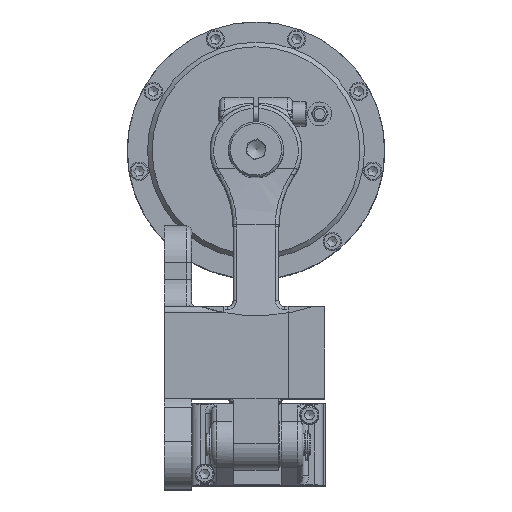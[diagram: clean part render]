
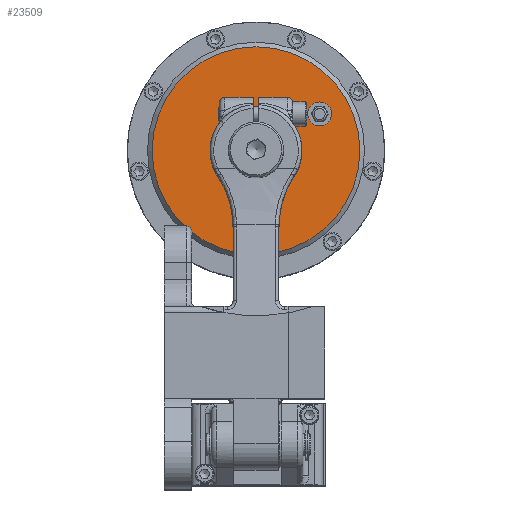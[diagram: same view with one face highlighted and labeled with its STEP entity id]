
A CAD part, top view. The second image highlights one B-rep face of the part: STEP entity #23509.
In plain terms, the highlighted planar face has unit normal (0, 0, 1).
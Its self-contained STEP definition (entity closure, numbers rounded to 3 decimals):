
#524=FACE_BOUND('',#4924,.T.);
#525=FACE_BOUND('',#4925,.T.);
#1538=CIRCLE('',#24523,23.);
#2335=CIRCLE('',#26045,56.5);
#2336=CIRCLE('',#26046,15.);
#2337=CIRCLE('',#26047,6.5);
#2338=CIRCLE('',#26048,6.5);
#3533=FACE_OUTER_BOUND('',#4923,.T.);
#4923=EDGE_LOOP('',(#20111));
#4924=EDGE_LOOP('',(#20112,#20113,#20114,#20115));
#4925=EDGE_LOOP('',(#20116,#20117));
#5499=LINE('',#38585,#7016);
#6153=LINE('',#42162,#7670);
#7016=VECTOR('',#28498,10.);
#7670=VECTOR('',#30724,10.);
#9084=VERTEX_POINT('',#38525);
#9090=VERTEX_POINT('',#38574);
#9092=VERTEX_POINT('',#38596);
#9787=VERTEX_POINT('',#42160);
#10382=VERTEX_POINT('',#44133);
#10383=VERTEX_POINT('',#44136);
#10384=VERTEX_POINT('',#44137);
#11717=EDGE_CURVE('',#9084,#9090,#5499,.T.);
#11720=EDGE_CURVE('',#9092,#9090,#1538,.T.);
#12839=EDGE_CURVE('',#9092,#9787,#6153,.T.);
#13660=EDGE_CURVE('',#10382,#10382,#2335,.T.);
#13661=EDGE_CURVE('',#9787,#9084,#2336,.T.);
#13662=EDGE_CURVE('',#10383,#10384,#2337,.T.);
#13663=EDGE_CURVE('',#10384,#10383,#2338,.T.);
#20111=ORIENTED_EDGE('',*,*,#13660,.F.);
#20112=ORIENTED_EDGE('',*,*,#12839,.T.);
#20113=ORIENTED_EDGE('',*,*,#13661,.T.);
#20114=ORIENTED_EDGE('',*,*,#11717,.T.);
#20115=ORIENTED_EDGE('',*,*,#11720,.F.);
#20116=ORIENTED_EDGE('',*,*,#13662,.T.);
#20117=ORIENTED_EDGE('',*,*,#13663,.T.);
#21124=PLANE('',#26044);
#23509=ADVANCED_FACE('',(#3533,#524,#525),#21124,.T.);
#24523=AXIS2_PLACEMENT_3D('',#38607,#28503,#28504);
#26044=AXIS2_PLACEMENT_3D('',#44132,#32482,#32483);
#26045=AXIS2_PLACEMENT_3D('',#44134,#32484,#32485);
#26046=AXIS2_PLACEMENT_3D('',#44135,#32486,#32487);
#26047=AXIS2_PLACEMENT_3D('',#44138,#32488,#32489);
#26048=AXIS2_PLACEMENT_3D('',#44139,#32490,#32491);
#28498=DIRECTION('',(0.,1.,0.));
#28503=DIRECTION('center_axis',(0.,0.,
1.));
#28504=DIRECTION('ref_axis',(0.,-1.,0.));
#30724=DIRECTION('',(0.,-1.,0.));
#32482=DIRECTION('center_axis',(0.,0.,
1.));
#32483=DIRECTION('ref_axis',(0.5,-0.866,0.));
#32484=DIRECTION('center_axis',(0.,0.,
-1.));
#32485=DIRECTION('ref_axis',(-0.866,-0.5,0.));
#32486=DIRECTION('center_axis',(0.,0.,
-1.));
#32487=DIRECTION('ref_axis',(0.866,0.5,0.));
#32488=DIRECTION('center_axis',(0.,0.,
-1.));
#32489=DIRECTION('ref_axis',(0.5,-0.866,0.));
#32490=DIRECTION('center_axis',(0.,0.,
-1.));
#32491=DIRECTION('ref_axis',(0.5,-0.866,0.));
#38525=CARTESIAN_POINT('',(51.5,149.925,-39.15));
#38574=CARTESIAN_POINT('',(51.5,157.951,-39.15));
#38585=CARTESIAN_POINT('',(51.5,163.884,-39.15));
#38596=CARTESIAN_POINT('',(48.5,157.951,-39.15));
#38607=CARTESIAN_POINT('Origin',(50.,135.,-39.15));
#42160=CARTESIAN_POINT('',(48.5,149.925,-39.15));
#42162=CARTESIAN_POINT('',(48.5,153.081,-39.15));
#44132=CARTESIAN_POINT('Origin',(82.043,153.5,-39.15));
#44133=CARTESIAN_POINT('',(98.93,163.25,-39.15));
#44134=CARTESIAN_POINT('Origin',(50.,135.,-39.15));
#44135=CARTESIAN_POINT('Origin',(50.,135.,-39.15));
#44136=CARTESIAN_POINT('',(87.891,149.371,-39.15));
#44137=CARTESIAN_POINT('',(81.391,160.629,-39.15));
#44138=CARTESIAN_POINT('Origin',(84.641,155.,-39.15));
#44139=CARTESIAN_POINT('Origin',(84.641,155.,-39.15));
